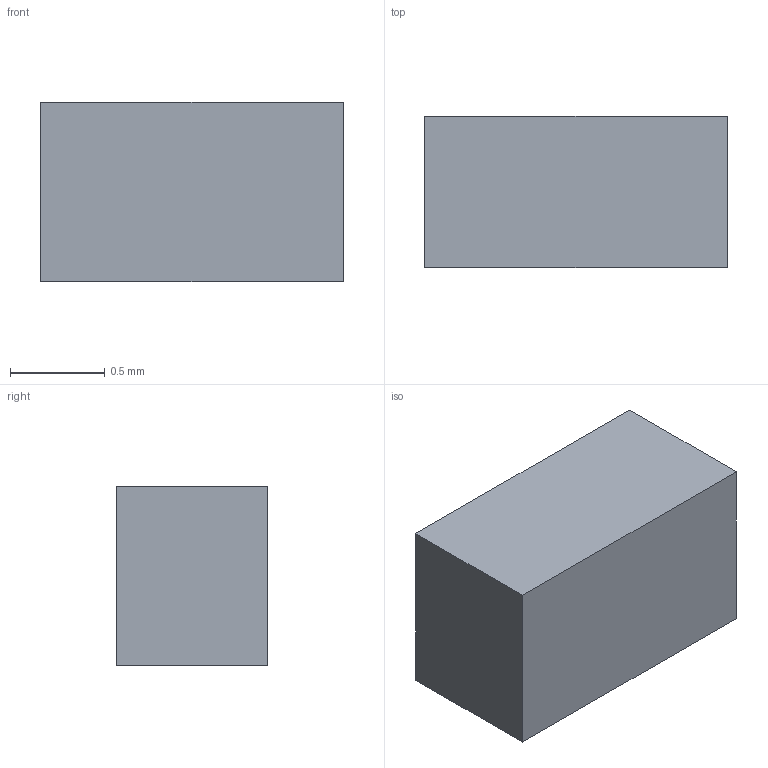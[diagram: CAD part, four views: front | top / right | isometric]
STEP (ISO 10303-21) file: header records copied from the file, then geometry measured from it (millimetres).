
FILE_DESCRIPTION(('Capacitor SMD 0603 (1608 metric) -- body envelope 0.95 mm tall (0603 chip, 0.80 mm body plus solder)'),'2;1');
FILE_NAME('C_0603_1608Metric','2026-09-08T00:00:00',('TI One Voice research programme'),(''),'EEG-CAR-01 step_write.py','','CC BY-SA 4.0');
FILE_SCHEMA(('AUTOMOTIVE_DESIGN { 1 0 10303 214 1 1 1 1 }'));
Length unit declared in the file: millimetre
Products named in the file (1): C_0603_1608Metric
Bounding box: 1.6 x 0.8 x 0.95 mm (x, y, z)
Volume: 1.2 mm3; surface area: 7.1 mm2
Topology: 1 solids, 1 shells, 6 faces, 12 edges, 8 vertices
Faces by surface type: plane 6
Entity records: 67 total; most frequent: DIRECTION 14, CARTESIAN_POINT 9, AXIS2_PLACEMENT_3D 7, POLY_LOOP 6, FACE_OUTER_BOUND 6, PLANE 6, FACE_SURFACE 6, UNCERTAINTY_MEASURE_WITH_UNIT 1
